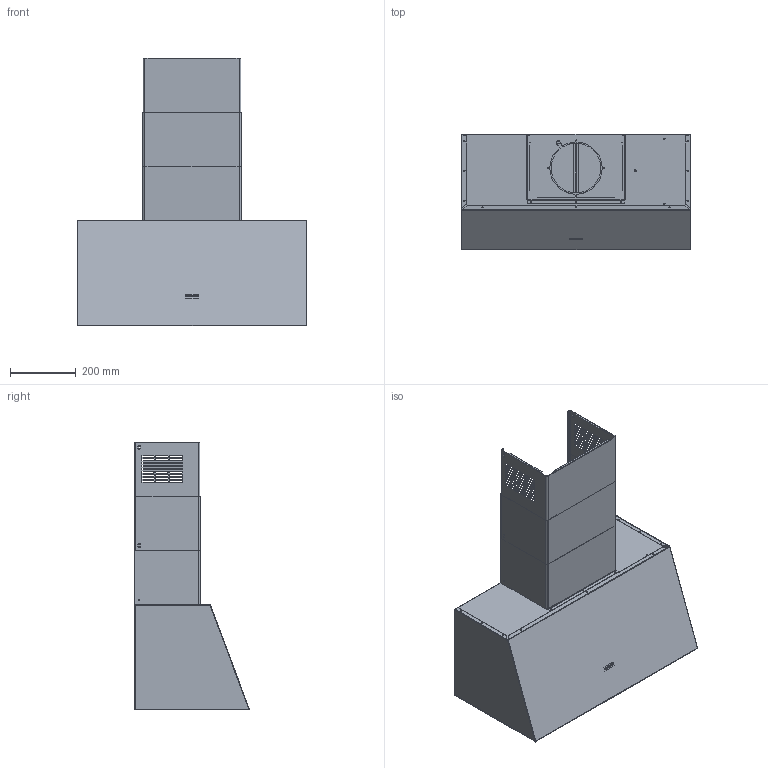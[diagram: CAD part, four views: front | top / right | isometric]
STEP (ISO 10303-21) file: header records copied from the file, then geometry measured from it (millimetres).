
FILE_DESCRIPTION(/* description */ (''),/* implementation_level */ '2;1');
FILE_NAME(/* name */ '3D001_Hoods_Country-Plus_FCO-70',/* time_stamp */ '2024-02-13T15:27:57+01:00',/* author */ (''),/* organization */ (''),/* preprocessor_version */ 'ST-DEVELOPER v19.2',/* originating_system */ 'Rhino 8.3',/* authorisation */ '');
FILE_SCHEMA (('CONFIG_CONTROL_DESIGN'));
Length unit declared in the file: millimetre
Products named in the file (12): Document; CME_FARETTO_PIATTO; CWA_002B; K49_002; K49_001; CWA_402E; FIB_018; 321018_711_ASM; 321018_001; 321018_002; 321018_003; 20B_012
Bounding box: 698 x 350.8 x 814.25 mm (x, y, z)
Volume: 1636489.9 mm3; surface area: 3544569.5 mm2
Topology: 19 solids, 19 shells, 3238 faces, 8609 edges, 5494 vertices
Faces by surface type: plane 2010, cylinder 931, bspline 297
Entity records: 97503 total; most frequent: CARTESIAN_POINT 38818, ORIENTED_EDGE 14184, EDGE_CURVE 7092, DIRECTION 6716, B_SPLINE_CURVE_WITH_KNOTS 4971, AXIS2_PLACEMENT_3D 4566, VERTEX_POINT 4512, EDGE_LOOP 3102
